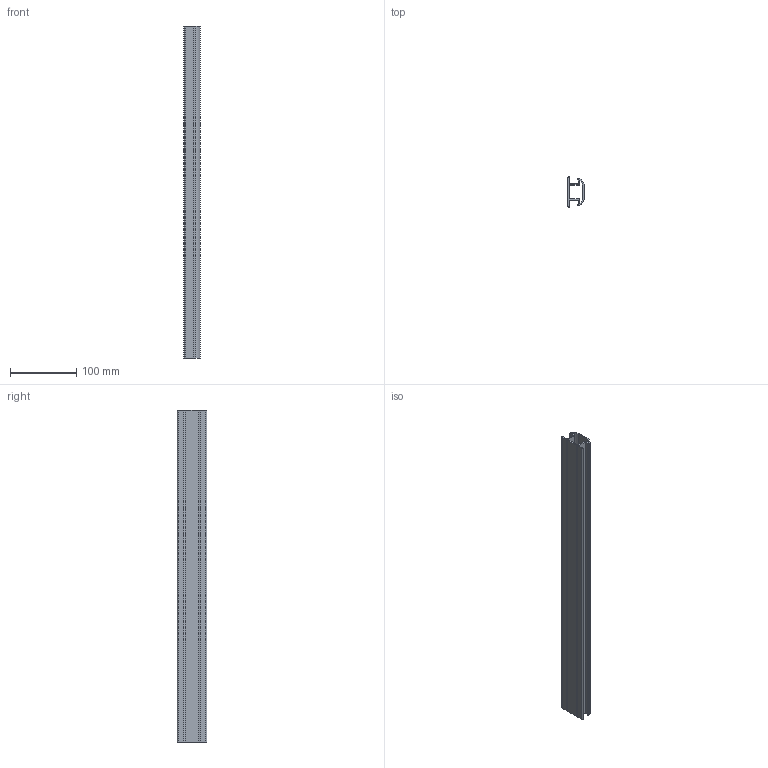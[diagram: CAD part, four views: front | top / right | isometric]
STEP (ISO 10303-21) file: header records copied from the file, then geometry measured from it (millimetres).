
FILE_DESCRIPTION (( 'STEP AP214' ), '1' );
FILE_NAME ('A40708.step', '2024-12-03T16:11:40', ( '' ), ( '' ), 'SwSTEP 2.0', 'SolidWorks 2023', '' );
FILE_SCHEMA (( 'AUTOMOTIVE_DESIGN' ));
Length unit declared in the file: millimetre
Products named in the file (1): A40708
Bounding box: 25 x 44.86 x 500 mm (x, y, z)
Volume: 135080.8 mm3; surface area: 134018.5 mm2
Topology: 1 solids, 1 shells, 52 faces, 150 edges, 100 vertices
Faces by surface type: cylinder 28, plane 24
Entity records: 1757 total; most frequent: DIRECTION 312, CARTESIAN_POINT 303, ORIENTED_EDGE 300, EDGE_CURVE 150, AXIS2_PLACEMENT_3D 109, VERTEX_POINT 100, LINE 94, VECTOR 94
